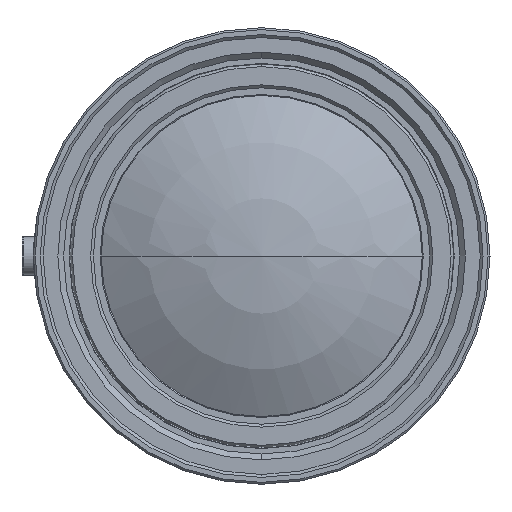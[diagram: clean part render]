
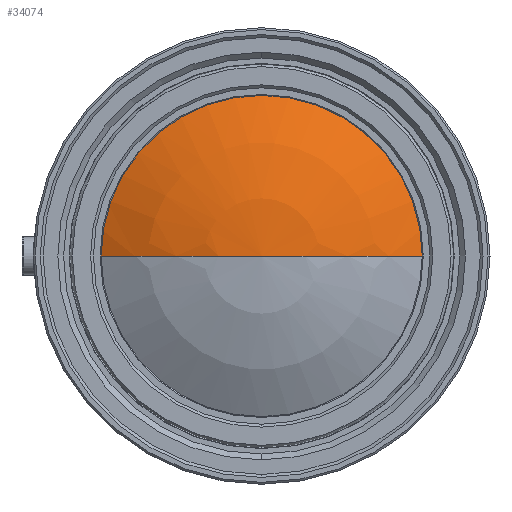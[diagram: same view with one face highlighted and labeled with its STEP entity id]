
A CAD part, left-side view. The second image highlights one B-rep face of the part: STEP entity #34074.
In plain terms, the highlighted spherical face has radius 33 mm.
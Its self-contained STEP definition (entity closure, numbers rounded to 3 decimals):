
#33981=CARTESIAN_POINT('',(-5.132,0.,0.));
#33982=DIRECTION('',(0.,0.,1.));
#33983=DIRECTION('',(-1.,0.,0.));
#33984=AXIS2_PLACEMENT_3D('',#33981,#33982,#33983);
#33986=CARTESIAN_POINT('',(-5.132,0.,0.));
#33987=DIRECTION('',(0.,0.,-1.));
#33988=DIRECTION('',(-1.,0.,0.));
#33989=AXIS2_PLACEMENT_3D('',#33986,#33987,#33988);
#34004=CARTESIAN_POINT('',(-33.295,0.,0.));
#34005=DIRECTION('',(-1.,0.,0.));
#34006=DIRECTION('',(0.,-1.,0.));
#34007=AXIS2_PLACEMENT_3D('',#34004,#34005,#34006);
#34045=CARTESIAN_POINT('',(-38.132,0.,0.));
#34046=CARTESIAN_POINT('',(-33.295,-17.2,0.));
#34047=VERTEX_POINT('',#34045);
#34048=VERTEX_POINT('',#34046);
#34051=CARTESIAN_POINT('',(-33.295,17.2,0.));
#34052=VERTEX_POINT('',#34051);
#34061=CARTESIAN_POINT('',(-5.132,0.,0.));
#34062=DIRECTION('',(-1.,0.,0.));
#34063=DIRECTION('',(0.,1.,0.));
#34064=AXIS2_PLACEMENT_3D('',#34061,#34062,#34063);
#34065=SPHERICAL_SURFACE('',#34064,33.);
#34067=ORIENTED_EDGE('',*,*,#34066,.F.);
#34069=ORIENTED_EDGE('',*,*,#34068,.T.);
#34071=ORIENTED_EDGE('',*,*,#34070,.F.);
#34072=EDGE_LOOP('',(#34067,#34069,#34071));
#34073=FACE_OUTER_BOUND('',#34072,.F.);
#34074=ADVANCED_FACE('',(#34073),#34065,.T.);
#33985=CIRCLE('',#33984,33.);
#33990=CIRCLE('',#33989,33.);
#34008=CIRCLE('',#34007,17.2);
#34066=EDGE_CURVE('',#34047,#34048,#33985,.T.);
#34068=EDGE_CURVE('',#34047,#34052,#33990,.T.);
#34070=EDGE_CURVE('',#34048,#34052,#34008,.T.);
